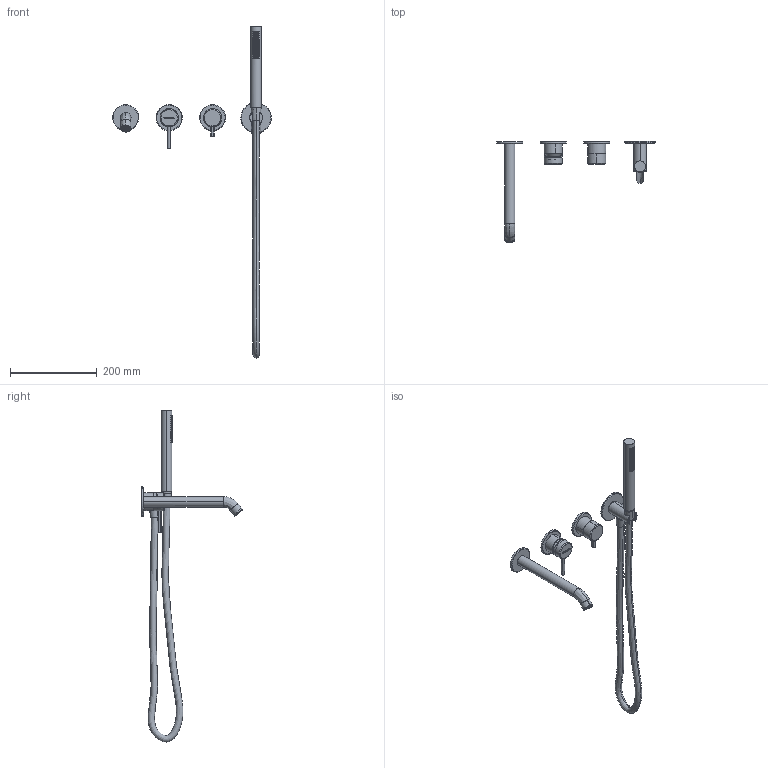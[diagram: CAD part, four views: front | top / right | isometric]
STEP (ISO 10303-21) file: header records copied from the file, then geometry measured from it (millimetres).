
FILE_DESCRIPTION(/* description */ (''),/* implementation_level */ '2;1');
FILE_NAME(/* name */ 'ST2570ACC',/* time_stamp */ '2024-02-26T10:08:10+01:00',/* author */ (''),/* organization */ (''),/* preprocessor_version */ 'ST-DEVELOPER v16.5',/* originating_system */ 'Rhino 7.36',/* authorisation */ '');
FILE_SCHEMA (('CONFIG_CONTROL_DESIGN'));
Length unit declared in the file: millimetre
Products named in the file (1): Document
Bounding box: 364.96 x 234.19 x 764.05 mm (x, y, z)
Volume: 318717.1 mm3; surface area: 147676.1 mm2
Topology: 19 solids, 149 shells, 1050 faces, 2660 edges, 1850 vertices
Faces by surface type: plane 407, bspline 333, cylinder 310
Entity records: 45923 total; most frequent: CARTESIAN_POINT 29386, ORIENTED_EDGE 4647, EDGE_CURVE 2658, VERTEX_POINT 1847, B_SPLINE_CURVE_WITH_KNOTS 1312, EDGE_LOOP 1200, ADVANCED_FACE 1050, FACE_OUTER_BOUND 1050
